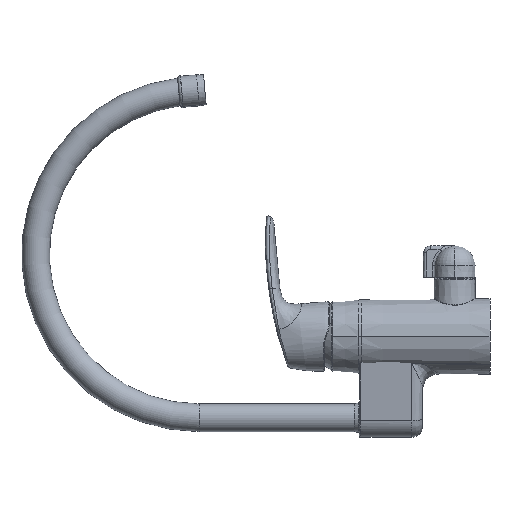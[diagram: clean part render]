
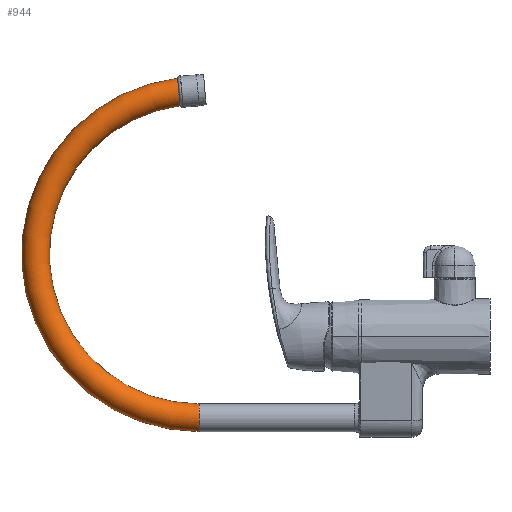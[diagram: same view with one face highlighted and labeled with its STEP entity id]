
A CAD part, left-side view. The second image highlights one B-rep face of the part: STEP entity #944.
In plain terms, the highlighted toroidal (fillet/blend) face has major radius 118 mm and minor radius 10 mm.
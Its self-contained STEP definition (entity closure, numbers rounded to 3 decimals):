
#69 = CARTESIAN_POINT ( 'NONE',  ( -60.822, 464.677, 691.534 ) ) ;
#124 = CARTESIAN_POINT ( 'NONE',  ( -54.793, 464.184, 685.906 ) ) ;
#186 = CARTESIAN_POINT ( 'NONE',  ( -51.891, 465.883, 705.315 ) ) ;
#746 = EDGE_CURVE ( 'NONE', #17227, #13918, #6855, .T. ) ;
#944 = ADVANCED_FACE ( 'NONE', ( #5465 ), #13071, .T. ) ;
#1534 = CARTESIAN_POINT ( 'NONE',  ( -51.565, 464.138, 685.377 ) ) ;
#1593 = CARTESIAN_POINT ( 'NONE',  ( -56.012, 464.227, 686.393 ) ) ;
#2195 = EDGE_CURVE ( 'NONE', #17227, #16836, #17225, .T. ) ;
#2602 = ORIENTED_EDGE ( 'NONE', *, *, #14160, .T. ) ;
#2631 = CARTESIAN_POINT ( 'NONE',  ( -51.565, 450.392, 578.256 ) ) ;
#2942 = CARTESIAN_POINT ( 'NONE',  ( -61.502, 464.897, 694.054 ) ) ;
#3011 = CARTESIAN_POINT ( 'NONE',  ( -61.311, 464.813, 693.09 ) ) ;
#3069 = CARTESIAN_POINT ( 'NONE',  ( -60.537, 465.397, 699.762 ) ) ;
#3199 = CARTESIAN_POINT ( 'NONE',  ( -51.565, 450.392, 578.256 ) ) ;
#3295 = CARTESIAN_POINT ( 'NONE',  ( -51.565, 464.138, 685.377 ) ) ;
#4102 = DIRECTION ( 'NONE',  ( -1., 0., 0. ) ) ;
#4131 = ORIENTED_EDGE ( 'NONE', *, *, #2195, .T. ) ;
#4165 = ORIENTED_EDGE ( 'NONE', *, *, #746, .F. ) ;
#4355 = CARTESIAN_POINT ( 'NONE',  ( -58.169, 465.668, 702.861 ) ) ;
#4413 = DIRECTION ( 'NONE',  ( 0., -1., 0. ) ) ;
#4414 = AXIS2_PLACEMENT_3D ( 'NONE', #3199, #16395, #7645 ) ;
#4422 = CARTESIAN_POINT ( 'NONE',  ( -55.693, 465.805, 704.432 ) ) ;
#4488 = CARTESIAN_POINT ( 'NONE',  ( -53.2, 465.871, 705.186 ) ) ;
#4541 = CARTESIAN_POINT ( 'NONE',  ( -54.162, 465.855, 704.995 ) ) ;
#4631 = CARTESIAN_POINT ( 'NONE',  ( -51.565, 450.392, 578.256 ) ) ;
#4810 = CIRCLE ( 'NONE', #16145, 10. ) ;
#5101 = AXIS2_PLACEMENT_3D ( 'NONE', #2631, #4102, #11661 ) ;
#5465 = FACE_OUTER_BOUND ( 'NONE', #11417, .T. ) ;
#5583 = CARTESIAN_POINT ( 'NONE',  ( -51.565, 450.392, 470.256 ) ) ;
#5972 = CARTESIAN_POINT ( 'NONE',  ( -61.231, 464.785, 692.77 ) ) ;
#6036 = CARTESIAN_POINT ( 'NONE',  ( -51.891, 464.138, 685.377 ) ) ;
#6855 = CIRCLE ( 'NONE', #5101, 108. ) ;
#7254 = CARTESIAN_POINT ( 'NONE',  ( -60.067, 464.55, 690.089 ) ) ;
#7323 = CARTESIAN_POINT ( 'NONE',  ( -57.664, 465.704, 703.273 ) ) ;
#7510 = CARTESIAN_POINT ( 'NONE',  ( -52.874, 465.876, 705.235 ) ) ;
#7645 = DIRECTION ( 'NONE',  ( 0., 0., 1. ) ) ;
#8720 = CARTESIAN_POINT ( 'NONE',  ( -55.105, 464.194, 686.017 ) ) ;
#8792 = CARTESIAN_POINT ( 'NONE',  ( -56.572, 465.766, 703.982 ) ) ;
#8854 = CARTESIAN_POINT ( 'NONE',  ( -53.845, 464.161, 685.634 ) ) ;
#8914 = CARTESIAN_POINT ( 'NONE',  ( -60.227, 465.447, 700.338 ) ) ;
#8975 = CARTESIAN_POINT ( 'NONE',  ( -52.218, 465.881, 705.299 ) ) ;
#9942 = CIRCLE ( 'NONE', #4414, 128. ) ;
#10219 = CARTESIAN_POINT ( 'NONE',  ( -61.499, 465.125, 696.66 ) ) ;
#10426 = CARTESIAN_POINT ( 'NONE',  ( -57.666, 464.319, 687.441 ) ) ;
#10483 = CARTESIAN_POINT ( 'NONE',  ( -61.041, 464.73, 692.146 ) ) ;
#10499 = ORIENTED_EDGE ( 'NONE', *, *, #16730, .F. ) ;
#10572 = DIRECTION ( 'NONE',  ( 0., -1., 0. ) ) ;
#11417 = EDGE_LOOP ( 'NONE', ( #4131, #2602, #10499, #4165 ) ) ;
#11492 = CARTESIAN_POINT ( 'NONE',  ( -51.565, 465.883, 705.315 ) ) ;
#11661 = DIRECTION ( 'NONE',  ( 0., 0., 1. ) ) ;
#11690 = DIRECTION ( 'NONE',  ( 0., 0., 1. ) ) ;
#11699 = CARTESIAN_POINT ( 'NONE',  ( -60.059, 465.472, 700.617 ) ) ;
#11768 = CARTESIAN_POINT ( 'NONE',  ( -59.519, 464.479, 689.27 ) ) ;
#11835 = CARTESIAN_POINT ( 'NONE',  ( -61.565, 464.954, 694.7 ) ) ;
#11896 = CARTESIAN_POINT ( 'NONE',  ( -60.237, 464.575, 690.371 ) ) ;
#11954 = CARTESIAN_POINT ( 'NONE',  ( -51.565, 465.883, 705.315 ) ) ;
#12791 = VERTEX_POINT ( 'NONE', #17062 ) ;
#13039 = CARTESIAN_POINT ( 'NONE',  ( -51.565, 450.392, 460.256 ) ) ;
#13071 = TOROIDAL_SURFACE ( 'NONE', #17674, 118., 10. ) ;
#13188 = CARTESIAN_POINT ( 'NONE',  ( -54.163, 464.168, 685.714 ) ) ;
#13257 = CARTESIAN_POINT ( 'NONE',  ( -56.852, 465.751, 703.814 ) ) ;
#13322 = CARTESIAN_POINT ( 'NONE',  ( -60.678, 465.371, 699.463 ) ) ;
#13384 = CARTESIAN_POINT ( 'NONE',  ( -59.516, 465.542, 701.426 ) ) ;
#13444 = CARTESIAN_POINT ( 'NONE',  ( -61.244, 465.237, 697.937 ) ) ;
#13918 = VERTEX_POINT ( 'NONE', #5583 ) ;
#14160 = EDGE_CURVE ( 'NONE', #16836, #12791, #9942, .T. ) ;
#14600 = CARTESIAN_POINT ( 'NONE',  ( -59.103, 465.586, 701.93 ) ) ;
#14666 = CARTESIAN_POINT ( 'NONE',  ( -56.585, 464.254, 686.7 ) ) ;
#14726 = CARTESIAN_POINT ( 'NONE',  ( -52.218, 464.14, 685.393 ) ) ;
#14795 = CARTESIAN_POINT ( 'NONE',  ( -53.2, 464.149, 685.506 ) ) ;
#16067 = CARTESIAN_POINT ( 'NONE',  ( -54.785, 465.838, 704.807 ) ) ;
#16138 = CARTESIAN_POINT ( 'NONE',  ( -57.4, 464.302, 687.244 ) ) ;
#16145 = AXIS2_PLACEMENT_3D ( 'NONE', #13039, #4413, #11690 ) ;
#16269 = CARTESIAN_POINT ( 'NONE',  ( -61.565, 465.068, 696. ) ) ;
#16328 = CARTESIAN_POINT ( 'NONE',  ( -59.106, 464.435, 688.767 ) ) ;
#16395 = DIRECTION ( 'NONE',  ( -1., 0., 0. ) ) ;
#16415 = DIRECTION ( 'NONE',  ( -1., 0., 0. ) ) ;
#16730 = EDGE_CURVE ( 'NONE', #13918, #12791, #4810, .T. ) ;
#16836 = VERTEX_POINT ( 'NONE', #11492 ) ;
#17062 = CARTESIAN_POINT ( 'NONE',  ( -51.565, 450.392, 450.256 ) ) ;
#17225 = B_SPLINE_CURVE_WITH_KNOTS ( 'NONE', 3,
 ( #1534, #6036, #14726, #17533, #14795, #8854, #13188, #124, #8720, #1593, #14666, #16138, #10426, #17793, #19016, #16328, #11768, #7254, #11896, #17663, #69, #10483, #5972, #3011, #2942, #11835, #16269, #10219, #13444, #17725, #13322, #3069, #8914, #11699, #13384, #14600, #4355, #7323, #13257, #8792, #17604, #4422, #16067, #4541, #4488, #7510, #8975, #186, #11954 ),
 .UNSPECIFIED., .F., .F.,
 ( 4, 2, 2, 2, 2, 2, 2, 2, 2, 2, 1, 2, 2, 2, 2, 2, 2, 2, 2, 2, 2, 2, 2, 2, 4 ),
 ( 0.059, 0.06, 0.061, 0.062, 0.063, 0.065, 0.066, 0.067, 0.069, 0.07, 0.071, 0.072, 0.073, 0.075, 0.077, 0.079, 0.08, 0.081, 0.083, 0.085, 0.086, 0.087, 0.089, 0.09, 0.091 ),
 .UNSPECIFIED. ) ;
#17227 = VERTEX_POINT ( 'NONE', #3295 ) ;
#17533 = CARTESIAN_POINT ( 'NONE',  ( -52.873, 464.145, 685.458 ) ) ;
#17604 = CARTESIAN_POINT ( 'NONE',  ( -55.993, 465.793, 704.291 ) ) ;
#17663 = CARTESIAN_POINT ( 'NONE',  ( -60.544, 464.625, 690.946 ) ) ;
#17674 = AXIS2_PLACEMENT_3D ( 'NONE', #4631, #16415, #10572 ) ;
#17725 = CARTESIAN_POINT ( 'NONE',  ( -61.055, 465.291, 698.558 ) ) ;
#17793 = CARTESIAN_POINT ( 'NONE',  ( -58.174, 464.355, 687.858 ) ) ;
#19016 = CARTESIAN_POINT ( 'NONE',  ( -58.416, 464.374, 688.077 ) ) ;
